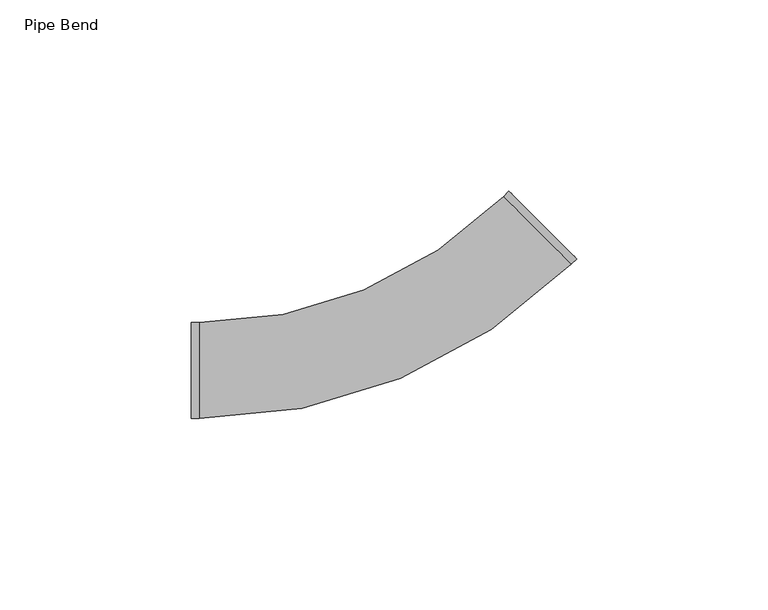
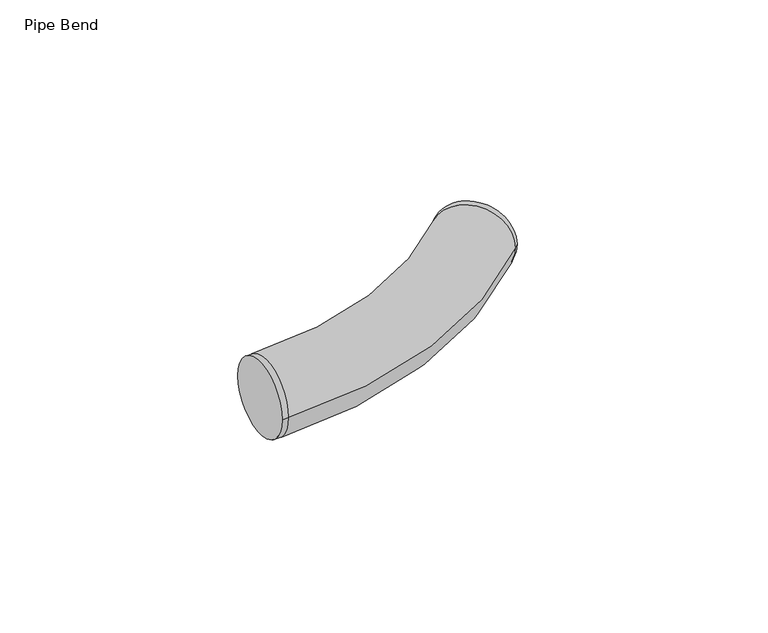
"""IFC4 building model written with IfcOpenShell, lengths in millimetres: pipe fitting geometry, Pipe Bend : Superpipe 2+ Pipe bend."""

from ifc_helpers import new_model, si_unit, point, frame, origin, place, context, project, spatial, circle_curve, ellipse_curve, trimmed, source, transform, mapped, element, save
from ifc_brep_helpers import plane_surface, cylinder_surface, revolved_surface, advanced_brep


def pipe_bend_d9dde6bf(model_context):
    return source(origin(), model_context, "Body", "AdvancedBrep", [
        advanced_brep(
        [(-53.7766953, -12.5, 0.0), (-53.7766953, 12.5, 0.0), (-51.7766953, -12.5, 0.0), (-51.7766953, 12.5, 0.0), (27.7728176, 45.4504871, 0.0), (45.4504871, 27.7728176, 0.0), (36.6116524, 36.6116524, 12.5), (36.6116524, 36.6116524, -12.5), (46.8647007, 29.1870311, 0.0), (29.1870311, 46.8647007, 0.0)],
        [
            (0, 1, circle_curve(frame((-53.7766953, 0.0, 0.0), z_axis=(-1.0, 0.0, 0.0), x_axis=(0.0, 1.0, 0.0)), 12.5)),
            (1, 0, circle_curve(frame((-53.7766953, 0.0, 0.0), z_axis=(-1.0, 0.0, 0.0), x_axis=(0.0, 1.0, 0.0)), 12.5)),
            (0, 2),
            (2, 3, circle_curve(frame((-51.7766953, 0.0, 0.0), z_axis=(-1.0, 0.0, 0.0), x_axis=(0.0, 1.0, 0.0)), 12.5)),
            (3, 1),
            (3, 2, circle_curve(frame((-51.7766953, 0.0, 0.0), z_axis=(-1.0, 0.0, 0.0), x_axis=(0.0, 1.0, 0.0)), 12.5)),
            (4, 3, circle_curve(frame((-51.7766953, 125.0, 0.0), z_axis=(0.0, 0.0, -1.0), x_axis=(0.0, -1.0, 0.0)), 112.5)),
            (2, 5, circle_curve(frame((-51.7766953, 125.0, 0.0), z_axis=(0.0, 0.0, 1.0), x_axis=(0.0, -1.0, 0.0)), 137.5)),
            (5, 6, circle_curve(frame((36.6116524, 36.6116524, 0.0), z_axis=(-0.7071067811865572, -0.7071067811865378, 0.0), x_axis=(-0.7071067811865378, 0.7071067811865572, 0.0)), 12.5)),
            (6, 4, circle_curve(frame((36.6116524, 36.6116524, 0.0), z_axis=(-0.7071067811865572, -0.7071067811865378, 0.0), x_axis=(-0.7071067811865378, 0.7071067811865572, 0.0)), 12.5)),
            (4, 7, circle_curve(frame((36.6116524, 36.6116524, 0.0), z_axis=(-0.7071067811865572, -0.7071067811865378, 0.0), x_axis=(-0.7071067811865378, 0.7071067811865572, 0.0)), 12.5)),
            (7, 5, circle_curve(frame((36.6116524, 36.6116524, 0.0), z_axis=(-0.7071067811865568, -0.7071067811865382, 0.0), x_axis=(-0.7071067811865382, 0.7071067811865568, 0.0)), 12.5)),
            (8, 9, circle_curve(frame((38.0258659, 38.0258659, 0.0), z_axis=(0.7071067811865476, 0.7071067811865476, 0.0), x_axis=(-0.7071067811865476, 0.7071067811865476, 0.0)), 12.5)),
            (9, 8, circle_curve(frame((38.0258659, 38.0258659, 0.0), z_axis=(0.7071067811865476, 0.7071067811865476, 0.0), x_axis=(-0.7071067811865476, 0.7071067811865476, 0.0)), 12.5)),
            (9, 4),
            (5, 8),
        ],
        [
            plane_surface(frame((-53.7766953, 0.0, 0.0), z_axis=(-1.0, 0.0, 0.0), x_axis=(0.0, 0.0, 1.0))),
            cylinder_surface(frame((-53.7766953, 0.0, 0.0), z_axis=(-1.0, 0.0, 0.0), x_axis=(0.0, 1.0, 0.0)), 12.5),
            revolved_surface(trimmed(ellipse_curve(frame((-51.7766953, 0.0, 0.0), z_axis=(-1.0, 0.0, 0.0), x_axis=(0.0, 1.0, 0.0)), 12.5, 12.5), [point((-51.7766953, -12.5, 0.0))], [point((-51.7766953, 12.5, 0.0))], True, "CARTESIAN"), (-51.7766953, 125.0, 0.0), (0.0, 0.0, 1.0)),
            revolved_surface(trimmed(ellipse_curve(frame((-51.7766953, 0.0, 0.0), z_axis=(-1.0, 0.0, 0.0), x_axis=(0.0, 1.0, 0.0)), 12.5, 12.5), [point((-51.7766953, 12.5, 0.0))], [point((-51.7766953, -12.5, 0.0))], True, "CARTESIAN"), (-51.7766953, 125.0, 0.0), (0.0, 0.0, 1.0)),
            plane_surface(frame((38.0258659, 38.0258659, 0.0), z_axis=(0.7071067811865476, 0.7071067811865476, 0.0), x_axis=(0.0, 0.0, 1.0))),
            cylinder_surface(frame((36.6116524, 36.6116524, 0.0), z_axis=(-0.7071067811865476, -0.7071067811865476, 0.0), x_axis=(-0.7071067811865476, 0.7071067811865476, 0.0)), 12.5),
        ],
        [
            (0, [[1, 2]]),
            (1, [[-1, 3, 4, 5]]),
            (1, [[-2, -5, 6, -3]]),
            (2, [[7, -4, 8, 9, 10]]),
            (3, [[-7, 11, 12, -8, -6]]),
            (4, [[13, 14]]),
            (5, [[-14, 15, -10, -9, 16]]),
            (5, [[-13, -16, -12, -11, -15]]),
        ],
    ),
    ])


if __name__ == "__main__":
    model = new_model("IFC4")
    model_context = context("Model", 3, world=origin())
    ifc_project = project(units=[si_unit("LENGTHUNIT", "METRE", prefix="MILLI")], contexts=[model_context])
    site = spatial("IfcSite", under=ifc_project)
    building = spatial("IfcBuilding", under=site)
    placement = place(None, origin())
    pipe_bend_shape = pipe_bend_d9dde6bf(model_context)
    element("IfcPipeFitting", 1, ObjectType="Pipe Bend : Superpipe 2+ Pipe bend", at=placement, inside=building, context=model_context, shape_type="MappedRepresentation", body=[
        mapped(pipe_bend_shape, transform((0.0, 0.0, 0.0), x_axis=(1.0, 0.0, 0.0), y_axis=(0.0, 1.0, 0.0), z_axis=(0.0, 0.0, 1.0))),
    ])
    save(model, "model.ifc")
